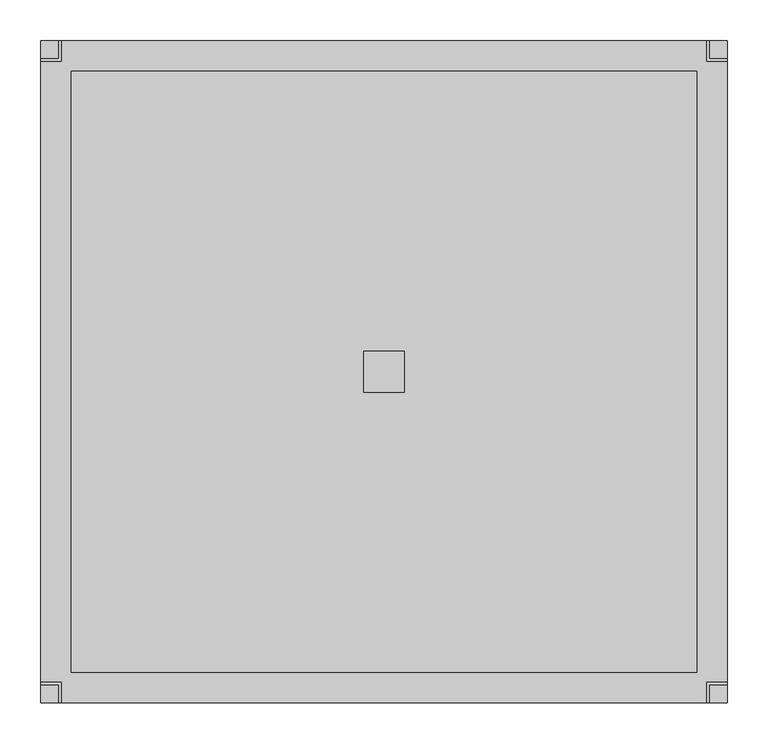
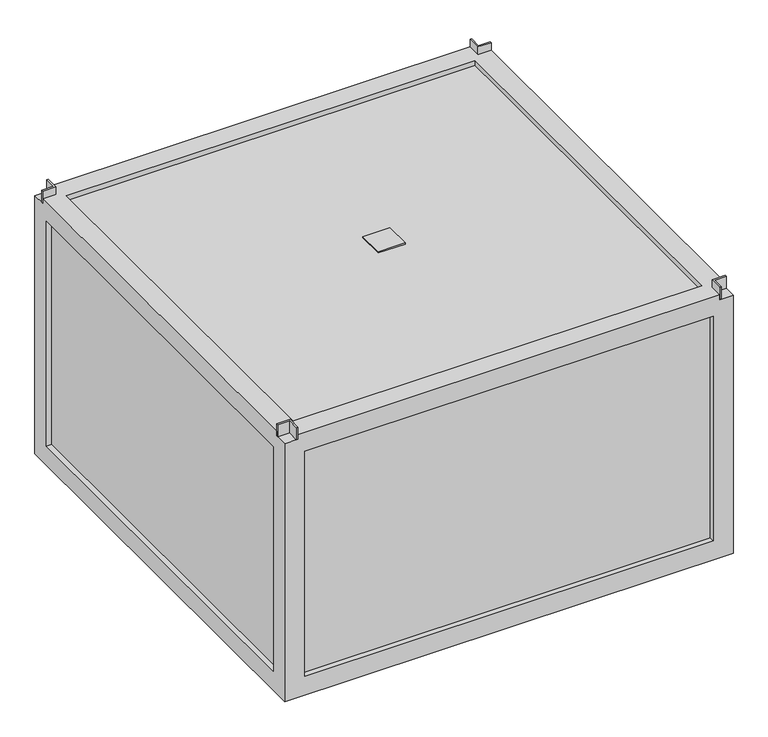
"""IFC4 building model written with IfcOpenShell, lengths in millimetres: proxy geometry, KORF_Вентилятор_UTR_WRH : UTR 60-30 WRH 31.4D (М)."""

from ifc_helpers import new_model, si_unit, frame, origin, place, context, project, spatial, polyline, outline, extrude, faceted_brep, source, transform, mapped, element, save


def mechanical_equipment_4180a14e(model_context):
    return source(origin(), model_context, "Body", "SolidModel", [
        extrude(outline(polyline([(395.0, -25.0), (395.0, 25.0), (445.0, 25.0), (445.0, -25.0), (395.0, -25.0)])), frame((0.0, 0.0, 260.0), z_axis=(0.0, 0.0, 1.0), x_axis=(1.0, 0.0, 0.0)), (0.0, 0.0, 1.0), 2.0),
        extrude(outline(polyline([(25.0, 380.0), (0.0, 380.0), (0.0, 383.0), (22.0, 383.0), (22.0, 405.0), (25.0, 405.0), (25.0, 380.0)])), frame((0.0, 0.0, 251.0), z_axis=(0.0, 0.0, 1.0), x_axis=(1.0, 0.0, 0.0)), (0.0, 0.0, 1.0), 24.0),
        extrude(outline(polyline([(815.0, 380.0), (815.0, 405.0), (818.0, 405.0), (818.0, 383.0), (840.0, 383.0), (840.0, 380.0), (815.0, 380.0)])), frame((0.0, 0.0, 251.0), z_axis=(0.0, 0.0, 1.0), x_axis=(1.0, 0.0, 0.0)), (0.0, 0.0, 1.0), 24.0),
        extrude(outline(polyline([(25.0, -380.0), (25.0, -405.0), (22.0, -405.0), (22.0, -383.0), (0.0, -383.0), (0.0, -380.0), (25.0, -380.0)])), frame((0.0, 0.0, 251.0), z_axis=(0.0, 0.0, 1.0), x_axis=(1.0, 0.0, 0.0)), (0.0, 0.0, 1.0), 24.0),
        extrude(outline(polyline([(815.0, -380.0), (840.0, -380.0), (840.0, -383.0), (818.0, -383.0), (818.0, -405.0), (815.0, -405.0), (815.0, -380.0)])), frame((0.0, 0.0, 251.0), z_axis=(0.0, 0.0, 1.0), x_axis=(1.0, 0.0, 0.0)), (0.0, 0.0, 1.0), 24.0),
        extrude(outline(polyline([(830.0, 395.0), (830.0, -395.0), (10.0, -395.0), (10.0, 395.0), (830.0, 395.0)])), frame((0.0, 0.0, -250.0), z_axis=(0.0, 0.0, 1.0), x_axis=(1.0, 0.0, 0.0)), (0.0, 0.0, 1.0), 500.0),
        faceted_brep([(0.0, -404.9999993, -259.9999993), (840.0, -404.9999993, -259.9999993), (839.9999993, -404.9999993, 251.0), (815.0, -404.9999993, 251.0), (815.0, -404.9999993, 260.0), (25.0, -404.9999993, 259.9999993), (25.0, -404.9999993, 251.0), (0.0, -404.9999993, 251.0), (37.5, -404.9999993, -222.4999993), (37.5, -404.9999993, 222.5), (802.4999993, -404.9999993, 222.5), (802.4999993, -404.9999993, -222.4999993), (10.000001, -394.9999993, -249.9999993), (10.000001, -394.9999993, 249.9999993), (829.9999993, -394.9999993, 249.999999), (829.999999, -394.9999993, -249.9999993), (37.5, -394.9999993, 222.5), (37.5, -394.9999993, -222.4999993), (802.4999993, -394.9999993, -222.4999993), (802.4999993, -394.9999993, 222.5), (0.0, -367.4999993, 222.4999993), (10.000001, -367.4999993, 222.4999993), (10.000001, -367.4999993, -222.4999993), (0.0, -367.4999993, -222.4999993), (0.0, 404.9999993, -259.9999993), (840.0, 405.0, -259.9999993), (802.5, -367.5, -259.9999993), (802.5, 367.5, -259.9999993), (37.5, 367.5, -259.9999993), (37.5, -367.5, -259.9999993), (10.000001, 394.9999993, -249.9999993), (829.999999, 394.999999, -249.9999993), (802.5, 367.5, -249.9999993), (802.5, -367.5, -249.9999993), (37.5, -367.5, -249.9999993), (37.5, 367.5, -249.9999993), (10.000001, 367.4999993, -222.4999993), (0.0, 367.4999993, -222.4999993), (0.0, 404.9999993, 251.0), (25.0, 404.9999993, 251.0), (25.0, 404.9999993, 259.9999993), (815.0, 404.9999993, 260.0), (815.0, 404.9999993, 251.0), (839.9999993, 404.9999993, 251.0), (37.5, 404.9999993, 222.5), (37.5, 404.9999993, -222.4999993), (802.4999993, 404.9999993, -222.4999993), (802.4999993, 404.9999993, 222.5), (10.000001, 394.9999993, 249.9999993), (829.9999993, 394.9999993, 249.999999), (37.5, 394.9999993, -222.4999993), (37.5, 394.9999993, 222.5), (802.4999993, 394.9999993, 222.5), (802.4999993, 394.9999993, -222.4999993), (10.000001, 367.4999993, 222.4999993), (0.0, 367.4999993, 222.4999993), (0.0, -380.0, 251.0), (0.0, -380.0, 259.9999993), (0.0, 380.0, 259.9999993), (0.0, 380.0, 251.0), (815.0, -380.0, 259.9999993), (839.9999993, -380.0, 259.9999993), (839.9999993, 380.0, 259.9999993), (815.0, 380.0, 259.9999993), (25.0, 380.0, 259.9999993), (25.0, -380.0, 259.9999993), (802.4999993, 367.4999993, 259.9999993), (802.4999993, -367.4999993, 259.9999993), (37.5000007, -367.4999993, 259.9999993), (37.5, 367.4999993, 259.9999993), (37.5, -367.4999993, 249.9999993), (37.5, 367.4999993, 249.9999993), (802.4999993, -367.4999993, 249.9999993), (802.4999993, 367.4999993, 249.9999993), (839.9999993, 380.0, 251.0), (839.9999993, -380.0, 251.0), (839.9999993, -367.5, -222.5), (839.9999993, -367.5, 222.5), (839.9999993, 367.5, 222.5), (839.9999993, 367.5, -222.5), (829.9999993, -367.5, 222.5), (829.9999993, -367.5, -222.5), (829.9999993, 367.5, -222.4999993), (829.9999993, 367.5, 222.5), (25.0, 380.0, 251.0), (815.0, 380.0, 251.0), (815.0, -380.0, 251.0), (25.0, -380.0, 251.0)], [[[0, 1, 2, 3, 4, 5, 6, 7], [8, 9, 10, 11]], [[12, 13, 14, 15], [16, 17, 18, 19]], [[20, 21, 22, 23]], [[0, 24, 25, 1], [26, 27, 28, 29]], [[30, 12, 15, 31], [32, 33, 34, 35]], [[23, 22, 36, 37]], [[25, 24, 38, 39, 40, 41, 42, 43], [44, 45, 46, 47]], [[48, 30, 31, 49], [50, 51, 52, 53]], [[37, 36, 54, 55]], [[24, 0, 7, 56, 57, 58, 59, 38], [20, 23, 37, 55]], [[5, 4, 60, 61, 62, 63, 41, 40, 64, 58, 57, 65], [66, 67, 68, 69]], [[35, 34, 29, 28]], [[69, 68, 70, 71]], [[16, 9, 8, 17]], [[44, 51, 50, 45]], [[13, 48, 49, 14], [72, 73, 71, 70]], [[12, 30, 48, 13], [22, 21, 54, 36]], [[21, 20, 55, 54]], [[1, 25, 43, 74, 62, 61, 75, 2], [76, 77, 78, 79]], [[14, 49, 31, 15], [80, 81, 82, 83]], [[66, 73, 72, 67]], [[67, 72, 70, 68]], [[9, 16, 19, 10]], [[51, 44, 47, 52]], [[80, 83, 78, 77]], [[73, 66, 69, 71]], [[32, 27, 26, 33]], [[33, 26, 29, 34]], [[27, 32, 35, 28]], [[17, 8, 11, 18]], [[45, 50, 53, 46]], [[76, 79, 82, 81]], [[77, 76, 81, 80]], [[79, 78, 83, 82]], [[11, 10, 19, 18]], [[47, 46, 53, 52]], [[59, 84, 39, 38]], [[42, 85, 74, 43]], [[75, 86, 3, 2]], [[87, 56, 7, 6]], [[84, 59, 58, 64]], [[39, 84, 64, 40]], [[85, 42, 41, 63]], [[74, 85, 63, 62]], [[86, 75, 61, 60]], [[3, 86, 60, 4]], [[56, 87, 65, 57]], [[87, 6, 5, 65]]]),
    ])


if __name__ == "__main__":
    model = new_model("IFC4")
    model_context = context("Model", 3, world=origin())
    ifc_project = project(units=[si_unit("LENGTHUNIT", "METRE", prefix="MILLI")], contexts=[model_context])
    site = spatial("IfcSite", under=ifc_project)
    building = spatial("IfcBuilding", under=site)
    placement = place(None, origin())
    mechanical_equipment_shape = mechanical_equipment_4180a14e(model_context)
    element("IfcBuildingElementProxy", 1, Name="KORF_Вентилятор_UTR_WRH : UTR 60-30 WRH 31.4D (М)", ObjectType="KORF_Вентилятор_UTR_WRH : UTR 60-30 WRH 31.4D (М)", at=placement, inside=building, context=model_context, shape_type="MappedRepresentation", body=[
        mapped(mechanical_equipment_shape, transform((0.0, 0.0, 0.0), x_axis=(1.0, 0.0, 0.0), y_axis=(0.0, 1.0, 0.0), z_axis=(0.0, 0.0, 1.0))),
    ])
    save(model, "model.ifc")
